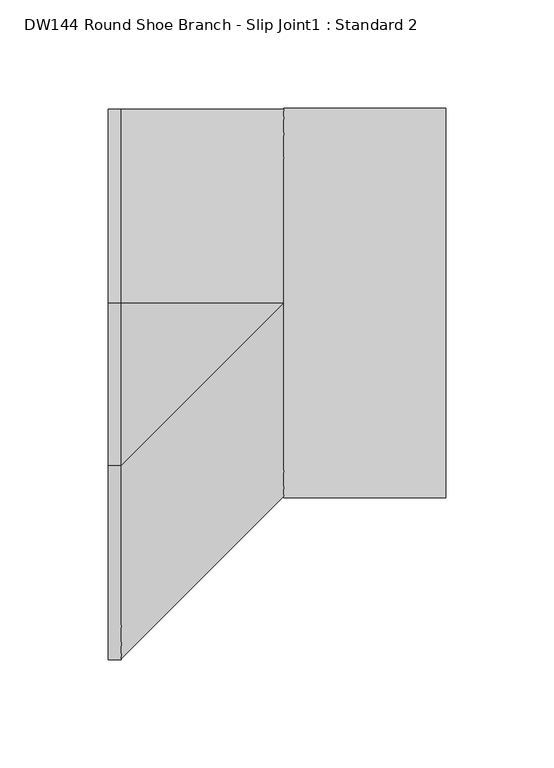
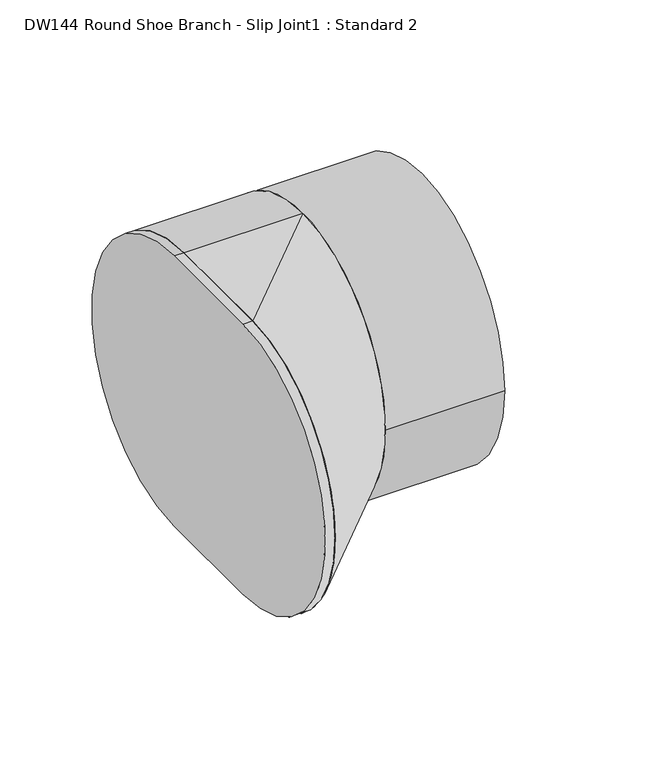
"""IFC4 building model written with IfcOpenShell, lengths in millimetres: duct fitting geometry, DW144 Round Shoe Branch - Slip Joint1 : Standard 2."""

from ifc_helpers import new_model, si_unit, point, frame, frame_2d, origin, origin_2d, place, context, project, spatial, polyline, circle_curve, trimmed, segment, composite_curve, outline, extrude, source, transform, mapped, element, save
from ifc_brep_helpers import plane_surface, cylinder_surface, extruded_surface, advanced_brep


def dw144_round_shoe_branch_slip_joint1_standard_2_e53ee3e9(model_context):
    return source(origin(), model_context, "Body", "SolidModel", [
        extrude(outline(composite_curve([segment(trimmed(circle_curve(origin_2d(), 90.0), [point((-90.0, 0.0))], [point((90.0, 0.0))], False, "CARTESIAN"), True, "CONTINUOUS"), segment(trimmed(circle_curve(origin_2d(), 90.0), [point((90.0, 0.0))], [point((-90.0, 0.0))], False, "CARTESIAN"), True, "CONTINUOUS")], self_intersect=False)), frame((75.0, 0.0, 0.0), z_axis=(1.0, 0.0, 0.0), x_axis=(0.0, 1.0, 0.0)), (0.0, 0.0, 1.0), 75.0),
        advanced_brep(
        [(75.0, 0.0, -90.0), (75.0, 0.0, 90.0), (0.0, 0.0, -90.0), (0.0, -75.0, -90.0), (0.0, -75.0, 90.0), (0.0, 0.0, 90.0)],
        [
            (0, 1, circle_curve(frame((75.0, 0.0, 0.0), z_axis=(1.0, 0.0, 0.0), x_axis=(0.0, 1.0, 0.0)), 90.0)),
            (1, 0, circle_curve(frame((75.0, 0.0, 0.0), z_axis=(1.0, 0.0, 0.0), x_axis=(0.0, 1.0, 0.0)), 90.0)),
            (2, 3),
            (3, 4, circle_curve(frame((0.0, -75.0, 0.0), z_axis=(-1.0, 0.0, 0.0), x_axis=(0.0, 1.0, 0.0)), 90.0)),
            (4, 5),
            (5, 2, circle_curve(frame((0.0, 0.0, 0.0), z_axis=(-1.0, 0.0, 0.0), x_axis=(0.0, 1.0, 0.0)), 90.0)),
            (5, 1),
            (0, 2),
            (4, 1),
            (3, 0),
        ],
        [
            plane_surface(frame((75.0, 0.0, 0.0), z_axis=(1.0, 0.0, 0.0), x_axis=(0.0, 1.0, 0.0))),
            plane_surface(frame((0.0, -37.5, 0.0), z_axis=(-1.0, 0.0, 0.0), x_axis=(0.0, 1.0, 0.0))),
            cylinder_surface(frame((0.0, 0.0, 0.0), z_axis=(1.0, 0.0, 0.0), x_axis=(0.0, 1.0, 0.0)), 90.0),
            plane_surface(frame((0.0, -37.5, 90.0), z_axis=(0.0, 0.0, 1.0), x_axis=(0.0, -1.0, 0.0))),
            extruded_surface(trimmed(circle_curve(frame((0.0, -75.0, 0.0), z_axis=(1.0, 0.0, 0.0), x_axis=(0.0, 1.0, 0.0)), 90.0), [point((0.0, -75.0, 90.0))], [point((0.0, -75.0, -90.0))], True, "CARTESIAN"), (75.0, 75.0, 0.0), 106.06601717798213),
            plane_surface(frame((0.0, -37.5, -90.0), z_axis=(0.0, 0.0, -1.0), x_axis=(0.0, 1.0, 0.0))),
        ],
        [
            (0, [[1, 2]]),
            (1, [[3, 4, 5, 6]]),
            (2, [[-6, 7, -1, 8]]),
            (3, [[-5, 9, -7]]),
            (4, [[-4, 10, -2, -9]]),
            (5, [[-3, -8, -10]]),
        ],
    ),
        extrude(outline(composite_curve([segment(polyline([(0.0, -90.0), (-75.0, -90.0)]), True, "CONTINUOUS"), segment(trimmed(circle_curve(frame_2d((-75.0, 0.0)), 90.0), [point((-75.0, -90.0))], [point((-75.0, 90.0))], False, "CARTESIAN"), True, "CONTINUOUS"), segment(polyline([(-75.0, 90.0), (0.0, 90.0)]), True, "CONTINUOUS"), segment(trimmed(circle_curve(origin_2d(), 90.0), [point((0.0, 90.0))], [point((0.0, -90.0))], False, "CARTESIAN"), True, "CONTINUOUS")], self_intersect=False)), frame((-6.096, 0.0, 0.0), z_axis=(1.0, 0.0, 0.0), x_axis=(0.0, 1.0, 0.0)), (0.0, 0.0, 1.0), 6.096),
    ])


if __name__ == "__main__":
    model = new_model("IFC4")
    model_context = context("Model", 3, world=origin())
    ifc_project = project(units=[si_unit("LENGTHUNIT", "METRE", prefix="MILLI")], contexts=[model_context])
    site = spatial("IfcSite", under=ifc_project)
    building = spatial("IfcBuilding", under=site)
    placement = place(None, origin())
    dw144_round_shoe_branch_slip_joint1_standard_2_shape = dw144_round_shoe_branch_slip_joint1_standard_2_e53ee3e9(model_context)
    element("IfcDuctFitting", 1, ObjectType="DW144 Round Shoe Branch - Slip Joint1 : Standard 2", at=placement, inside=building, context=model_context, shape_type="MappedRepresentation", body=[
        mapped(dw144_round_shoe_branch_slip_joint1_standard_2_shape, transform((0.0, 0.0, 0.0), x_axis=(1.0, 0.0, 0.0), y_axis=(0.0, 1.0, 0.0), z_axis=(0.0, 0.0, 1.0))),
    ])
    save(model, "model.ifc")
